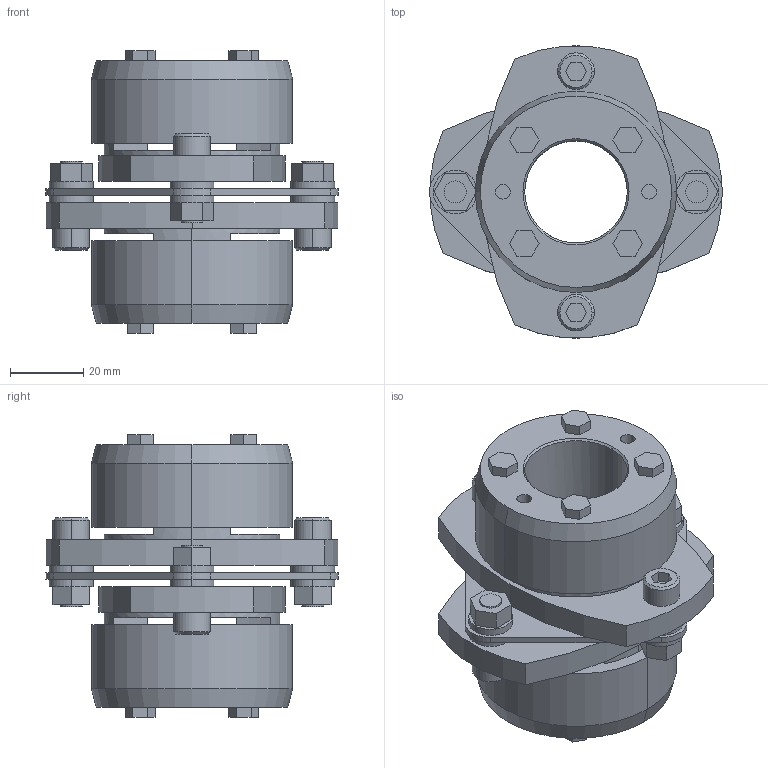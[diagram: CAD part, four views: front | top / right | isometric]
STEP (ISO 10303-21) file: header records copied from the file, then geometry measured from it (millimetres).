
FILE_DESCRIPTION((''),'2;1');
FILE_NAME('LCS-80T7-28×28.stp','2011-09-12T16:43:17',(''),(''),'AutoCAD STEP 2000i','AutoCAD 2000i',', , ');
FILE_SCHEMA(('CONFIG_CONTROL_DESIGN'));
Length unit declared in the file: millimetre
Products named in the file (10): LCS-80T7-28×28; 忣兜1; LC80T7-T028-1; LC80T7-T028; LC80T7-T024; LC80T7-T022; LC80T7-T019; LC80T7-T017-1; LC80T7-T017; LCS80-ITA
Assembly tree (9 placements, depth 2):
  LCS-80T7-28×28
    忣兜1
    LC80T7-T028-1
    LC80T7-T028
    LC80T7-T024
    LC80T7-T022
    LC80T7-T019
    LC80T7-T017-1
    LC80T7-T017
    LCS80-ITA
Bounding box: 80 x 79.95 x 77.35 mm (x, y, z)
Volume: 133331.5 mm3; surface area: 41614.6 mm2
Topology: 1 solids, 1 shells, 246 faces, 604 edges, 396 vertices
Faces by surface type: plane 146, cylinder 80, cone 20
Entity records: 7521 total; most frequent: DIRECTION 1312, CARTESIAN_POINT 1256, ORIENTED_EDGE 1208, EDGE_CURVE 604, AXIS2_PLACEMENT_3D 452, VECTOR 408, LINE 408, VERTEX_POINT 396
